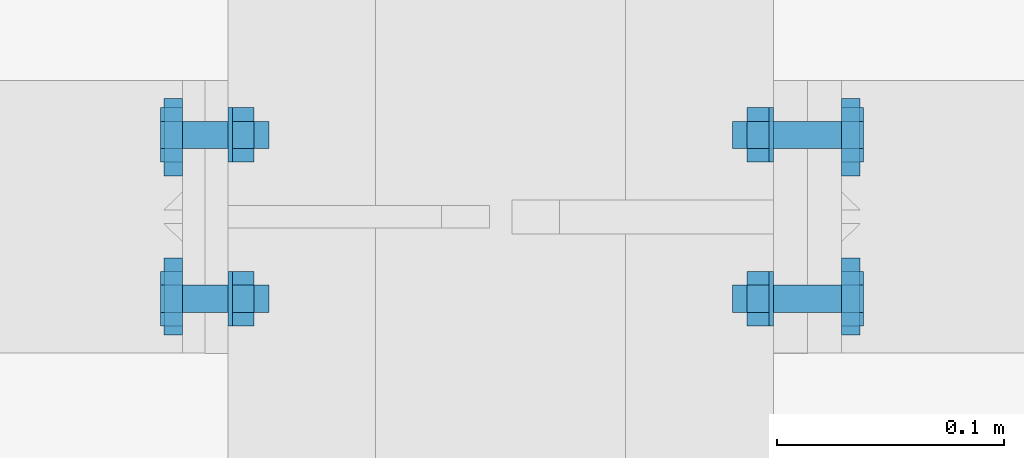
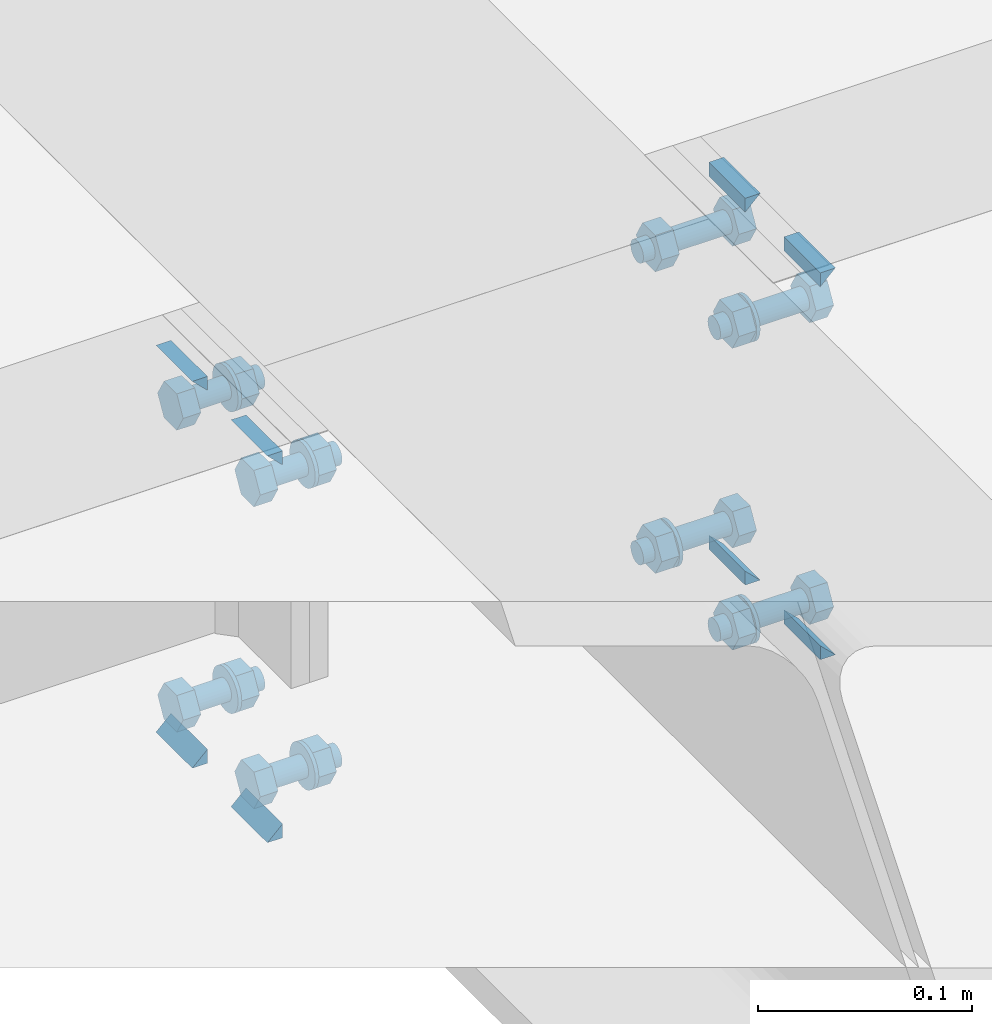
# One storey, part 52 of 66: 31 mechanical fasteners, 16 fasteners.
"""IFC4 building model written with IfcOpenShell, lengths in metres."""

from ifc_helpers import new_model, si_unit, frame, origin_with_axes, place, context, project, spatial, polyline, outline, extrude, type_object, element, save


model = new_model("IFC4")

# Units and contexts
model_context = context("Model", 3, precision=1e-05, world=origin_with_axes())
ifc_project = project(units=[si_unit("LENGTHUNIT", "METRE"), si_unit("AREAUNIT", "SQUARE_METRE"), si_unit("VOLUMEUNIT", "CUBIC_METRE"), si_unit("MASSUNIT", "GRAM", prefix="KILO"), si_unit("TIMEUNIT", "SECOND"), si_unit("PLANEANGLEUNIT", "RADIAN"), si_unit("SOLIDANGLEUNIT", "STERADIAN"), si_unit("THERMODYNAMICTEMPERATUREUNIT", "DEGREE_CELSIUS")], contexts=[model_context])

# Site, building, storey
placement_1 = place(None, origin_with_axes())
site = spatial("IfcSite", under=ifc_project, at=placement_1, Name="Italia", CompositionType="ELEMENT")
building = spatial("IfcBuilding", under=site, at=placement_1, Name="Uffici", CompositionType="ELEMENT")
storey_placement = place(None, frame((0.0, 0.0, 3.299999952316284), z_axis=(0.0, 0.0, 1.0), x_axis=(1.0, 0.0, 0.0)))
storey = spatial("IfcBuildingStorey", under=building, at=storey_placement, Name="Storey 1", CompositionType="ELEMENT", Elevation=3.299999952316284)

# Fasteners
fastener_type_1 = type_object("IfcFastenerType", Name="Collegamento -004_-003", PredefinedType="WELD")
placement_2 = place(placement_1, origin_with_axes())
fastener_1_placement = place(placement_2, origin_with_axes())
element("IfcFastener", 1, at=fastener_1_placement, inside=storey, type_object=fastener_type_1, Name="Collegamento -004_-003", context=model_context, shape_type="SweptSolid", body=[
    extrude(outline(polyline([(0.0, 0.0), (-0.00817299, 0.00792813), (0.0, 0.00792813), (0.0, 0.0)])), frame((9.31505, 1.77862, 3.28232), z_axis=(0.0, -1.0, 0.0), x_axis=(1.0, 0.0, 0.0)), (0.0, 0.0, 1.0), 0.0339999),
])
fastener_type_2 = type_object("IfcFastenerType", Name="Collegamento -004_-003", PredefinedType="WELD")
fastener_2_placement = place(placement_2, origin_with_axes())
element("IfcFastener", 2, at=fastener_2_placement, inside=storey, type_object=fastener_type_2, Name="Collegamento -004_-003", context=model_context, shape_type="SweptSolid", body=[
    extrude(outline(polyline([(0.0, 0.0), (0.00817299, -0.00792813), (0.0, -0.00792813), (0.0, 0.0)])), frame((9.31505, 1.74462, 3.07768), z_axis=(0.0, 1.0, 0.0), x_axis=(-1.0, 0.0, 0.0)), (0.0, 0.0, 1.0), 0.0339999),
])
fastener_type_3 = type_object("IfcFastenerType", Name="Collegamento -004_-003", PredefinedType="WELD")
fastener_3_placement = place(placement_2, origin_with_axes())
element("IfcFastener", 3, at=fastener_3_placement, inside=storey, type_object=fastener_type_3, Name="Collegamento -004_-003", context=model_context, shape_type="SweptSolid", body=[
    extrude(outline(polyline([(0.0, 0.0), (0.00817299, -0.00792813), (0.0, -0.00792813), (0.0, 0.0)])), frame((9.31505, 1.81472, 3.07768), z_axis=(0.0, 1.0, 0.0), x_axis=(-1.0, 0.0, 0.0)), (0.0, 0.0, 1.0), 0.0339999),
])
fastener_type_4 = type_object("IfcFastenerType", Name="Collegamento -004_-003", PredefinedType="WELD")
fastener_4_placement = place(placement_2, origin_with_axes())
element("IfcFastener", 4, at=fastener_4_placement, inside=storey, type_object=fastener_type_4, Name="Collegamento -004_-003", context=model_context, shape_type="SweptSolid", body=[
    extrude(outline(polyline([(0.0, 0.0), (-0.00817299, 0.00792813), (0.0, 0.00792813), (0.0, 0.0)])), frame((9.31505, 1.84872, 3.28232), z_axis=(0.0, -1.0, 0.0), x_axis=(1.0, 0.0, 0.0)), (0.0, 0.0, 1.0), 0.0339999),
])
fastener_type_5 = type_object("IfcFastenerType", Name="Collegamento -004_-003", PredefinedType="WELD")
fastener_5_placement = place(placement_2, origin_with_axes())
element("IfcFastener", 5, at=fastener_5_placement, inside=storey, type_object=fastener_type_5, Name="Collegamento -004_-003", context=model_context, shape_type="SweptSolid", body=[
    extrude(outline(polyline([(0.0, 0.0), (-0.00817299, 0.00792813), (0.0, 0.00792813), (0.0, 0.0)])), frame((9.31505, 1.77862, 3.28232), z_axis=(0.0, -1.0, 0.0), x_axis=(1.0, 0.0, 0.0)), (0.0, 0.0, 1.0), 0.0339999),
])
fastener_type_6 = type_object("IfcFastenerType", Name="Collegamento -004_-003", PredefinedType="WELD")
fastener_6_placement = place(placement_2, origin_with_axes())
element("IfcFastener", 6, at=fastener_6_placement, inside=storey, type_object=fastener_type_6, Name="Collegamento -004_-003", context=model_context, shape_type="SweptSolid", body=[
    extrude(outline(polyline([(0.0, 0.0), (0.00817299, -0.00792813), (0.0, -0.00792813), (0.0, 0.0)])), frame((9.31505, 1.74462, 3.07768), z_axis=(0.0, 1.0, 0.0), x_axis=(-1.0, 0.0, 0.0)), (0.0, 0.0, 1.0), 0.0339999),
])
fastener_type_7 = type_object("IfcFastenerType", Name="Collegamento -004_-003", PredefinedType="WELD")
fastener_7_placement = place(placement_2, origin_with_axes())
element("IfcFastener", 7, at=fastener_7_placement, inside=storey, type_object=fastener_type_7, Name="Collegamento -004_-003", context=model_context, shape_type="SweptSolid", body=[
    extrude(outline(polyline([(0.0, 0.0), (0.00817299, -0.00792813), (0.0, -0.00792813), (0.0, 0.0)])), frame((9.31505, 1.81472, 3.07768), z_axis=(0.0, 1.0, 0.0), x_axis=(-1.0, 0.0, 0.0)), (0.0, 0.0, 1.0), 0.0339999),
])
fastener_type_8 = type_object("IfcFastenerType", Name="Collegamento -004_-003", PredefinedType="WELD")
fastener_8_placement = place(placement_2, origin_with_axes())
element("IfcFastener", 8, at=fastener_8_placement, inside=storey, type_object=fastener_type_8, Name="Collegamento -004_-003", context=model_context, shape_type="SweptSolid", body=[
    extrude(outline(polyline([(0.0, 0.0), (-0.00817299, 0.00792813), (0.0, 0.00792813), (0.0, 0.0)])), frame((9.31505, 1.84872, 3.28232), z_axis=(0.0, -1.0, 0.0), x_axis=(1.0, 0.0, 0.0)), (0.0, 0.0, 1.0), 0.0339999),
])

# Mechanical fasteners
mechanical_fastener_type_1 = type_object("IfcMechanicalFastenerType", Name="Collegamento -004_-003", PredefinedType="BOLT")
mechanical_fastener_1_placement = place(placement_2, origin_with_axes())
element("IfcMechanicalFastener", 9, at=mechanical_fastener_1_placement, inside=storey, type_object=mechanical_fastener_type_1, Name="Collegamento -004_-003", NominalDiameter=0.0119999, context=model_context, shape_type="SweptSolid", body=[
    extrude(outline(polyline([(0.0, 0.0), (-0.0120001, 0.0), (-0.018, 0.0103924), (-0.0120001, 0.0207846), (0.0, 0.0207846), (0.00599992, 0.0103924), (0.0, 0.0)])), frame((9.315, 1.82667, 3.08361), z_axis=(-1.0, 0.0, 0.0), x_axis=(0.0, -1.0, 0.0)), (0.0, 0.0, 1.0), 0.00959969),
])
mechanical_fastener_type_2 = type_object("IfcMechanicalFastenerType", Name="Collegamento -004_-003", PredefinedType="BOLT")
mechanical_fastener_2_placement = place(placement_2, origin_with_axes())
element("IfcMechanicalFastener", 10, at=mechanical_fastener_2_placement, inside=storey, type_object=mechanical_fastener_type_2, Name="Collegamento -004_-003", NominalDiameter=0.012, context=model_context, shape_type="SweptSolid", body=[
    extrude(outline(polyline([(0.0, 0.0), (-0.000204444, -0.00155282), (-0.000803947, -0.00300002), (-0.00175738, -0.00424266), (-0.00300002, -0.00519609), (-0.0044471, -0.00579548), (-0.00600004, -0.00600004), (-0.00755298, -0.00579548), (-0.00900006, -0.00519609), (-0.0102427, -0.00424266), (-0.0111961, -0.00300002), (-0.0117956, -0.00155282), (-0.0120001, 0.0), (-0.0117956, 0.00155282), (-0.0111961, 0.00300002), (-0.0102427, 0.00424266), (-0.00900006, 0.00519609), (-0.00755298, 0.00579548), (-0.00600004, 0.00600004), (-0.0044471, 0.00579548), (-0.00300002, 0.00519609), (-0.00175738, 0.00424266), (-0.000803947, 0.00300002), (-0.000204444, 0.00155282), (0.0, 0.0)])), frame((9.353, 1.82667, 3.094), z_axis=(-1.0, 0.0, 0.0), x_axis=(0.0, -1.0, 0.0)), (0.0, 0.0, 1.0), 0.0380001),
])
mechanical_fastener_type_3 = type_object("IfcMechanicalFastenerType", Name="Collegamento -004_-003", PredefinedType="BOLT")
mechanical_fastener_3_placement = place(placement_2, origin_with_axes())
element("IfcMechanicalFastener", 11, at=mechanical_fastener_3_placement, inside=storey, type_object=mechanical_fastener_type_3, Name="Collegamento -004_-003", NominalDiameter=0.0119999, context=model_context, shape_type="SweptSolid", body=[
    extrude(outline(polyline([(0.0, 0.0), (-0.0120001, 0.0), (-0.018, 0.0103924), (-0.0120001, 0.0207846), (0.0, 0.0207846), (0.00599992, 0.0103924), (0.0, 0.0)])), frame((9.3466, 1.82667, 3.08361), z_axis=(-1.0, 0.0, 0.0), x_axis=(0.0, -1.0, 0.0)), (0.0, 0.0, 1.0), 0.00959969),
])
mechanical_fastener_type_4 = type_object("IfcMechanicalFastenerType", Name="Collegamento -004_-003", PredefinedType="BOLT")
mechanical_fastener_4_placement = place(placement_2, origin_with_axes())
element("IfcMechanicalFastener", 12, at=mechanical_fastener_4_placement, inside=storey, type_object=mechanical_fastener_type_4, Name="Collegamento -004_-003", NominalDiameter=0.024, context=model_context, shape_type="SweptSolid", body=[
    extrude(outline(polyline([(0.0, 0.0), (-0.000408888, -0.00310588), (-0.00160766, -0.00600004), (-0.00351465, -0.00848532), (-0.00599992, -0.0103922), (-0.00889409, -0.0115912), (-0.012, -0.0120001), (-0.0151058, -0.0115912), (-0.018, -0.0103922), (-0.0204853, -0.00848532), (-0.0223923, -0.00600004), (-0.023591, -0.00310588), (-0.0239999, 0.0), (-0.023591, 0.00310588), (-0.0223923, 0.00600004), (-0.0204853, 0.00848532), (-0.018, 0.0103922), (-0.0151058, 0.0115912), (-0.012, 0.0120001), (-0.00889409, 0.0115912), (-0.00599992, 0.0103922), (-0.00351465, 0.00848532), (-0.00160766, 0.00600004), (-0.000408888, 0.00310588), (0.0, 0.0)])), frame((9.337, 1.82067, 3.094), z_axis=(-1.0, 0.0, 0.0), x_axis=(0.0, -1.0, 0.0)), (0.0, 0.0, 1.0), 0.00199986),
])
mechanical_fastener_type_5 = type_object("IfcMechanicalFastenerType", Name="Collegamento -004_-003", PredefinedType="BOLT")
mechanical_fastener_5_placement = place(placement_2, origin_with_axes())
element("IfcMechanicalFastener", 13, at=mechanical_fastener_5_placement, inside=storey, type_object=mechanical_fastener_type_5, Name="Collegamento -004_-003", NominalDiameter=0.0119999, context=model_context, shape_type="SweptSolid", body=[
    extrude(outline(polyline([(0.0, 0.0), (-0.0120001, 0.0), (-0.018, 0.0103924), (-0.0120001, 0.0207846), (0.0, 0.0207846), (0.00599992, 0.0103924), (0.0, 0.0)])), frame((9.315, 1.75467, 3.08361), z_axis=(-1.0, 0.0, 0.0), x_axis=(0.0, -1.0, 0.0)), (0.0, 0.0, 1.0), 0.00959969),
])
mechanical_fastener_type_6 = type_object("IfcMechanicalFastenerType", Name="Collegamento -004_-003", PredefinedType="BOLT")
mechanical_fastener_6_placement = place(placement_2, origin_with_axes())
element("IfcMechanicalFastener", 14, at=mechanical_fastener_6_placement, inside=storey, type_object=mechanical_fastener_type_6, Name="Collegamento -004_-003", NominalDiameter=0.012, context=model_context, shape_type="SweptSolid", body=[
    extrude(outline(polyline([(0.0, 0.0), (-0.000204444, -0.00155282), (-0.000803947, -0.00300002), (-0.00175738, -0.00424266), (-0.00300002, -0.00519609), (-0.0044471, -0.00579548), (-0.00600004, -0.00600004), (-0.00755298, -0.00579548), (-0.00900006, -0.00519609), (-0.0102427, -0.00424266), (-0.0111961, -0.00300002), (-0.0117956, -0.00155282), (-0.0120001, 0.0), (-0.0117956, 0.00155282), (-0.0111961, 0.00300002), (-0.0102427, 0.00424266), (-0.00900006, 0.00519609), (-0.00755298, 0.00579548), (-0.00600004, 0.00600004), (-0.0044471, 0.00579548), (-0.00300002, 0.00519609), (-0.00175738, 0.00424266), (-0.000803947, 0.00300002), (-0.000204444, 0.00155282), (0.0, 0.0)])), frame((9.353, 1.75467, 3.094), z_axis=(-1.0, 0.0, 0.0), x_axis=(0.0, -1.0, 0.0)), (0.0, 0.0, 1.0), 0.0380001),
])
mechanical_fastener_type_7 = type_object("IfcMechanicalFastenerType", Name="Collegamento -004_-003", PredefinedType="BOLT")
mechanical_fastener_7_placement = place(placement_2, origin_with_axes())
element("IfcMechanicalFastener", 15, at=mechanical_fastener_7_placement, inside=storey, type_object=mechanical_fastener_type_7, Name="Collegamento -004_-003", NominalDiameter=0.0119999, context=model_context, shape_type="SweptSolid", body=[
    extrude(outline(polyline([(0.0, 0.0), (-0.0120001, 0.0), (-0.018, 0.0103924), (-0.0120001, 0.0207846), (0.0, 0.0207846), (0.00599992, 0.0103924), (0.0, 0.0)])), frame((9.3466, 1.75467, 3.08361), z_axis=(-1.0, 0.0, 0.0), x_axis=(0.0, -1.0, 0.0)), (0.0, 0.0, 1.0), 0.00959969),
])
mechanical_fastener_type_8 = type_object("IfcMechanicalFastenerType", Name="Collegamento -004_-003", PredefinedType="BOLT")
mechanical_fastener_8_placement = place(placement_2, origin_with_axes())
element("IfcMechanicalFastener", 16, at=mechanical_fastener_8_placement, inside=storey, type_object=mechanical_fastener_type_8, Name="Collegamento -004_-003", NominalDiameter=0.024, context=model_context, shape_type="SweptSolid", body=[
    extrude(outline(polyline([(0.0, 0.0), (-0.000408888, -0.00310588), (-0.00160766, -0.00600004), (-0.00351465, -0.00848532), (-0.00599992, -0.0103922), (-0.00889409, -0.0115912), (-0.012, -0.0120001), (-0.0151058, -0.0115912), (-0.018, -0.0103922), (-0.0204853, -0.00848532), (-0.0223923, -0.00600004), (-0.023591, -0.00310588), (-0.0239999, 0.0), (-0.023591, 0.00310588), (-0.0223923, 0.00600004), (-0.0204853, 0.00848532), (-0.018, 0.0103922), (-0.0151058, 0.0115912), (-0.012, 0.0120001), (-0.00889409, 0.0115912), (-0.00599992, 0.0103922), (-0.00351465, 0.00848532), (-0.00160766, 0.00600004), (-0.000408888, 0.00310588), (0.0, 0.0)])), frame((9.337, 1.74867, 3.094), z_axis=(-1.0, 0.0, 0.0), x_axis=(0.0, -1.0, 0.0)), (0.0, 0.0, 1.0), 0.00199986),
])
mechanical_fastener_type_9 = type_object("IfcMechanicalFastenerType", Name="Collegamento -004_-003", PredefinedType="BOLT")
mechanical_fastener_9_placement = place(placement_2, origin_with_axes())
element("IfcMechanicalFastener", 17, at=mechanical_fastener_9_placement, inside=storey, type_object=mechanical_fastener_type_9, Name="Collegamento -004_-003", NominalDiameter=0.0119999, context=model_context, shape_type="SweptSolid", body=[
    extrude(outline(polyline([(0.0, 0.0), (-0.0120001, 0.0), (-0.018, 0.0103922), (-0.0120001, 0.0207846), (0.0, 0.0207846), (0.00599992, 0.0103922), (0.0, 0.0)])), frame((9.315, 1.82667, 3.25561), z_axis=(-1.0, 0.0, 0.0), x_axis=(0.0, -1.0, 0.0)), (0.0, 0.0, 1.0), 0.00959969),
])
mechanical_fastener_type_10 = type_object("IfcMechanicalFastenerType", Name="Collegamento -004_-003", PredefinedType="BOLT")
mechanical_fastener_10_placement = place(placement_2, origin_with_axes())
element("IfcMechanicalFastener", 18, at=mechanical_fastener_10_placement, inside=storey, type_object=mechanical_fastener_type_10, Name="Collegamento -004_-003", NominalDiameter=0.012, context=model_context, shape_type="SweptSolid", body=[
    extrude(outline(polyline([(0.0, 0.0), (-0.000204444, -0.00155282), (-0.000803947, -0.00300002), (-0.00175738, -0.00424266), (-0.00300002, -0.00519609), (-0.0044471, -0.00579548), (-0.00600004, -0.00600004), (-0.00755298, -0.00579548), (-0.00900006, -0.00519609), (-0.0102427, -0.00424266), (-0.0111961, -0.00300002), (-0.0117956, -0.00155282), (-0.0120001, 0.0), (-0.0117956, 0.00155282), (-0.0111961, 0.00300002), (-0.0102427, 0.00424266), (-0.00900006, 0.00519609), (-0.00755298, 0.00579548), (-0.00600004, 0.00600004), (-0.0044471, 0.00579548), (-0.00300002, 0.00519609), (-0.00175738, 0.00424266), (-0.000803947, 0.00300002), (-0.000204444, 0.00155282), (0.0, 0.0)])), frame((9.353, 1.82667, 3.266), z_axis=(-1.0, 0.0, 0.0), x_axis=(0.0, -1.0, 0.0)), (0.0, 0.0, 1.0), 0.0380001),
])
mechanical_fastener_type_11 = type_object("IfcMechanicalFastenerType", Name="Collegamento -004_-003", PredefinedType="BOLT")
mechanical_fastener_11_placement = place(placement_2, origin_with_axes())
element("IfcMechanicalFastener", 19, at=mechanical_fastener_11_placement, inside=storey, type_object=mechanical_fastener_type_11, Name="Collegamento -004_-003", NominalDiameter=0.0119999, context=model_context, shape_type="SweptSolid", body=[
    extrude(outline(polyline([(0.0, 0.0), (-0.0120001, 0.0), (-0.018, 0.0103922), (-0.0120001, 0.0207846), (0.0, 0.0207846), (0.00599992, 0.0103922), (0.0, 0.0)])), frame((9.3466, 1.82667, 3.25561), z_axis=(-1.0, 0.0, 0.0), x_axis=(0.0, -1.0, 0.0)), (0.0, 0.0, 1.0), 0.00959969),
])
mechanical_fastener_type_12 = type_object("IfcMechanicalFastenerType", Name="Collegamento -004_-003", PredefinedType="BOLT")
mechanical_fastener_12_placement = place(placement_2, origin_with_axes())
element("IfcMechanicalFastener", 20, at=mechanical_fastener_12_placement, inside=storey, type_object=mechanical_fastener_type_12, Name="Collegamento -004_-003", NominalDiameter=0.024, context=model_context, shape_type="SweptSolid", body=[
    extrude(outline(polyline([(0.0, 0.0), (-0.000408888, -0.00310588), (-0.00160766, -0.00600004), (-0.00351465, -0.00848532), (-0.00599992, -0.0103922), (-0.00889409, -0.0115912), (-0.012, -0.0120001), (-0.0151058, -0.0115912), (-0.018, -0.0103922), (-0.0204853, -0.00848532), (-0.0223923, -0.00600004), (-0.023591, -0.00310588), (-0.0239999, 0.0), (-0.023591, 0.00310588), (-0.0223923, 0.00600004), (-0.0204853, 0.00848532), (-0.018, 0.0103922), (-0.0151058, 0.0115912), (-0.012, 0.0120001), (-0.00889409, 0.0115912), (-0.00599992, 0.0103922), (-0.00351465, 0.00848532), (-0.00160766, 0.00600004), (-0.000408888, 0.00310588), (0.0, 0.0)])), frame((9.337, 1.82067, 3.266), z_axis=(-1.0, 0.0, 0.0), x_axis=(0.0, -1.0, 0.0)), (0.0, 0.0, 1.0), 0.00199986),
])
mechanical_fastener_type_13 = type_object("IfcMechanicalFastenerType", Name="Collegamento -004_-003", PredefinedType="BOLT")
mechanical_fastener_13_placement = place(placement_2, origin_with_axes())
element("IfcMechanicalFastener", 21, at=mechanical_fastener_13_placement, inside=storey, type_object=mechanical_fastener_type_13, Name="Collegamento -004_-003", NominalDiameter=0.0119999, context=model_context, shape_type="SweptSolid", body=[
    extrude(outline(polyline([(0.0, 0.0), (-0.0120001, 0.0), (-0.018, 0.0103922), (-0.0120001, 0.0207846), (0.0, 0.0207846), (0.00599992, 0.0103922), (0.0, 0.0)])), frame((9.315, 1.75467, 3.25561), z_axis=(-1.0, 0.0, 0.0), x_axis=(0.0, -1.0, 0.0)), (0.0, 0.0, 1.0), 0.00959969),
])
mechanical_fastener_type_14 = type_object("IfcMechanicalFastenerType", Name="Collegamento -004_-003", PredefinedType="BOLT")
mechanical_fastener_14_placement = place(placement_2, origin_with_axes())
element("IfcMechanicalFastener", 22, at=mechanical_fastener_14_placement, inside=storey, type_object=mechanical_fastener_type_14, Name="Collegamento -004_-003", NominalDiameter=0.012, context=model_context, shape_type="SweptSolid", body=[
    extrude(outline(polyline([(0.0, 0.0), (-0.000204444, -0.00155282), (-0.000803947, -0.00300002), (-0.00175738, -0.00424266), (-0.00300002, -0.00519609), (-0.0044471, -0.00579548), (-0.00600004, -0.00600004), (-0.00755298, -0.00579548), (-0.00900006, -0.00519609), (-0.0102427, -0.00424266), (-0.0111961, -0.00300002), (-0.0117956, -0.00155282), (-0.0120001, 0.0), (-0.0117956, 0.00155282), (-0.0111961, 0.00300002), (-0.0102427, 0.00424266), (-0.00900006, 0.00519609), (-0.00755298, 0.00579548), (-0.00600004, 0.00600004), (-0.0044471, 0.00579548), (-0.00300002, 0.00519609), (-0.00175738, 0.00424266), (-0.000803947, 0.00300002), (-0.000204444, 0.00155282), (0.0, 0.0)])), frame((9.353, 1.75467, 3.266), z_axis=(-1.0, 0.0, 0.0), x_axis=(0.0, -1.0, 0.0)), (0.0, 0.0, 1.0), 0.0380001),
])
mechanical_fastener_type_15 = type_object("IfcMechanicalFastenerType", Name="Collegamento -004_-003", PredefinedType="BOLT")
mechanical_fastener_15_placement = place(placement_2, origin_with_axes())
element("IfcMechanicalFastener", 23, at=mechanical_fastener_15_placement, inside=storey, type_object=mechanical_fastener_type_15, Name="Collegamento -004_-003", NominalDiameter=0.0119999, context=model_context, shape_type="SweptSolid", body=[
    extrude(outline(polyline([(0.0, 0.0), (-0.0120001, 0.0), (-0.018, 0.0103922), (-0.0120001, 0.0207846), (0.0, 0.0207846), (0.00599992, 0.0103922), (0.0, 0.0)])), frame((9.3466, 1.75467, 3.25561), z_axis=(-1.0, 0.0, 0.0), x_axis=(0.0, -1.0, 0.0)), (0.0, 0.0, 1.0), 0.00959969),
])
mechanical_fastener_type_16 = type_object("IfcMechanicalFastenerType", Name="Collegamento -004_-003", PredefinedType="BOLT")
mechanical_fastener_16_placement = place(placement_2, origin_with_axes())
element("IfcMechanicalFastener", 24, at=mechanical_fastener_16_placement, inside=storey, type_object=mechanical_fastener_type_16, Name="Collegamento -004_-003", NominalDiameter=0.024, context=model_context, shape_type="SweptSolid", body=[
    extrude(outline(polyline([(0.0, 0.0), (-0.000408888, -0.00310588), (-0.00160766, -0.00600004), (-0.00351465, -0.00848532), (-0.00599992, -0.0103922), (-0.00889409, -0.0115912), (-0.012, -0.0120001), (-0.0151058, -0.0115912), (-0.018, -0.0103922), (-0.0204853, -0.00848532), (-0.0223923, -0.00600004), (-0.023591, -0.00310588), (-0.0239999, 0.0), (-0.023591, 0.00310588), (-0.0223923, 0.00600004), (-0.0204853, 0.00848532), (-0.018, 0.0103922), (-0.0151058, 0.0115912), (-0.012, 0.0120001), (-0.00889409, 0.0115912), (-0.00599992, 0.0103922), (-0.00351465, 0.00848532), (-0.00160766, 0.00600004), (-0.000408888, 0.00310588), (0.0, 0.0)])), frame((9.337, 1.74867, 3.266), z_axis=(-1.0, 0.0, 0.0), x_axis=(0.0, -1.0, 0.0)), (0.0, 0.0, 1.0), 0.00199986),
])

# Fasteners
fastener_type_9 = type_object("IfcFastenerType", Name="Collegamento -004_-005", PredefinedType="WELD")
fastener_9_placement = place(placement_2, origin_with_axes())
element("IfcFastener", 25, at=fastener_9_placement, inside=storey, type_object=fastener_type_9, Name="Collegamento -004_-005", context=model_context, shape_type="SweptSolid", body=[
    extrude(outline(polyline([(0.0, 0.0), (-0.00817299, 0.00792813), (0.0, 0.00792813), (0.0, 0.0)])), frame((9.60495, 1.74462, 3.28232), z_axis=(0.0, 1.0, 0.0), x_axis=(-1.0, 0.0, 0.0)), (0.0, 0.0, 1.0), 0.0339999),
])
fastener_type_10 = type_object("IfcFastenerType", Name="Collegamento -004_-005", PredefinedType="WELD")
fastener_10_placement = place(placement_2, origin_with_axes())
element("IfcFastener", 26, at=fastener_10_placement, inside=storey, type_object=fastener_type_10, Name="Collegamento -004_-005", context=model_context, shape_type="SweptSolid", body=[
    extrude(outline(polyline([(0.0, 0.0), (0.00817299, -0.00792813), (0.0, -0.00792813), (0.0, 0.0)])), frame((9.60495, 1.77862, 3.07768), z_axis=(0.0, -1.0, 0.0), x_axis=(1.0, 0.0, 0.0)), (0.0, 0.0, 1.0), 0.0339999),
])
fastener_type_11 = type_object("IfcFastenerType", Name="Collegamento -004_-005", PredefinedType="WELD")
fastener_11_placement = place(placement_2, origin_with_axes())
element("IfcFastener", 27, at=fastener_11_placement, inside=storey, type_object=fastener_type_11, Name="Collegamento -004_-005", context=model_context, shape_type="SweptSolid", body=[
    extrude(outline(polyline([(0.0, 0.0), (0.00817299, -0.00792813), (0.0, -0.00792813), (0.0, 0.0)])), frame((9.60495, 1.84872, 3.07768), z_axis=(0.0, -1.0, 0.0), x_axis=(1.0, 0.0, 0.0)), (0.0, 0.0, 1.0), 0.0339999),
])
fastener_type_12 = type_object("IfcFastenerType", Name="Collegamento -004_-005", PredefinedType="WELD")
fastener_12_placement = place(placement_2, origin_with_axes())
element("IfcFastener", 28, at=fastener_12_placement, inside=storey, type_object=fastener_type_12, Name="Collegamento -004_-005", context=model_context, shape_type="SweptSolid", body=[
    extrude(outline(polyline([(0.0, 0.0), (-0.00817299, 0.00792813), (0.0, 0.00792813), (0.0, 0.0)])), frame((9.60495, 1.81472, 3.28232), z_axis=(0.0, 1.0, 0.0), x_axis=(-1.0, 0.0, 0.0)), (0.0, 0.0, 1.0), 0.0339999),
])
fastener_type_13 = type_object("IfcFastenerType", Name="Collegamento -004_-005", PredefinedType="WELD")
fastener_13_placement = place(placement_2, origin_with_axes())
element("IfcFastener", 29, at=fastener_13_placement, inside=storey, type_object=fastener_type_13, Name="Collegamento -004_-005", context=model_context, shape_type="SweptSolid", body=[
    extrude(outline(polyline([(0.0, 0.0), (-0.00817299, 0.00792813), (0.0, 0.00792813), (0.0, 0.0)])), frame((9.60495, 1.74462, 3.28232), z_axis=(0.0, 1.0, 0.0), x_axis=(-1.0, 0.0, 0.0)), (0.0, 0.0, 1.0), 0.0339999),
])
fastener_type_14 = type_object("IfcFastenerType", Name="Collegamento -004_-005", PredefinedType="WELD")
fastener_14_placement = place(placement_2, origin_with_axes())
element("IfcFastener", 30, at=fastener_14_placement, inside=storey, type_object=fastener_type_14, Name="Collegamento -004_-005", context=model_context, shape_type="SweptSolid", body=[
    extrude(outline(polyline([(0.0, 0.0), (0.00817299, -0.00792813), (0.0, -0.00792813), (0.0, 0.0)])), frame((9.60495, 1.77862, 3.07768), z_axis=(0.0, -1.0, 0.0), x_axis=(1.0, 0.0, 0.0)), (0.0, 0.0, 1.0), 0.0339999),
])
fastener_type_15 = type_object("IfcFastenerType", Name="Collegamento -004_-005", PredefinedType="WELD")
fastener_15_placement = place(placement_2, origin_with_axes())
element("IfcFastener", 31, at=fastener_15_placement, inside=storey, type_object=fastener_type_15, Name="Collegamento -004_-005", context=model_context, shape_type="SweptSolid", body=[
    extrude(outline(polyline([(0.0, 0.0), (0.00817299, -0.00792813), (0.0, -0.00792813), (0.0, 0.0)])), frame((9.60495, 1.84872, 3.07768), z_axis=(0.0, -1.0, 0.0), x_axis=(1.0, 0.0, 0.0)), (0.0, 0.0, 1.0), 0.0339999),
])
fastener_type_16 = type_object("IfcFastenerType", Name="Collegamento -004_-005", PredefinedType="WELD")
fastener_16_placement = place(placement_2, origin_with_axes())
element("IfcFastener", 32, at=fastener_16_placement, inside=storey, type_object=fastener_type_16, Name="Collegamento -004_-005", context=model_context, shape_type="SweptSolid", body=[
    extrude(outline(polyline([(0.0, 0.0), (-0.00817299, 0.00792813), (0.0, 0.00792813), (0.0, 0.0)])), frame((9.60495, 1.81472, 3.28232), z_axis=(0.0, 1.0, 0.0), x_axis=(-1.0, 0.0, 0.0)), (0.0, 0.0, 1.0), 0.0339999),
])

# Mechanical fasteners
mechanical_fastener_type_17 = type_object("IfcMechanicalFastenerType", Name="Collegamento -004_-005", PredefinedType="BOLT")
mechanical_fastener_17_placement = place(placement_2, origin_with_axes())
element("IfcMechanicalFastener", 33, at=mechanical_fastener_17_placement, inside=storey, type_object=mechanical_fastener_type_17, Name="Collegamento -004_-005", NominalDiameter=0.0119999, context=model_context, shape_type="SweptSolid", body=[
    extrude(outline(polyline([(0.0, 0.0), (-0.0120001, 0.0), (-0.018, 0.0103924), (-0.0120001, 0.0207846), (0.0, 0.0207846), (0.00599992, 0.0103924), (0.0, 0.0)])), frame((9.605, 1.76667, 3.08361), z_axis=(1.0, 0.0, 0.0), x_axis=(0.0, 1.0, 0.0)), (0.0, 0.0, 1.0), 0.00960064),
])
mechanical_fastener_type_18 = type_object("IfcMechanicalFastenerType", Name="Collegamento -004_-005", PredefinedType="BOLT")
mechanical_fastener_18_placement = place(placement_2, origin_with_axes())
element("IfcMechanicalFastener", 34, at=mechanical_fastener_18_placement, inside=storey, type_object=mechanical_fastener_type_18, Name="Collegamento -004_-005", NominalDiameter=0.012, context=model_context, shape_type="SweptSolid", body=[
    extrude(outline(polyline([(0.0, 0.0), (-0.000204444, -0.00155282), (-0.000803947, -0.00300002), (-0.00175738, -0.00424266), (-0.00300002, -0.00519609), (-0.0044471, -0.00579548), (-0.00600004, -0.00600004), (-0.00755298, -0.00579548), (-0.00900006, -0.00519609), (-0.0102427, -0.00424266), (-0.0111961, -0.00300002), (-0.0117956, -0.00155282), (-0.0120001, 0.0), (-0.0117956, 0.00155282), (-0.0111961, 0.00300002), (-0.0102427, 0.00424266), (-0.00900006, 0.00519609), (-0.00755298, 0.00579548), (-0.00600004, 0.00600004), (-0.0044471, 0.00579548), (-0.00300002, 0.00519609), (-0.00175738, 0.00424266), (-0.000803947, 0.00300002), (-0.000204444, 0.00155282), (0.0, 0.0)])), frame((9.557, 1.76667, 3.094), z_axis=(1.0, 0.0, 0.0), x_axis=(0.0, 1.0, 0.0)), (0.0, 0.0, 1.0), 0.0479994),
])
mechanical_fastener_type_19 = type_object("IfcMechanicalFastenerType", Name="Collegamento -004_-005", PredefinedType="BOLT")
mechanical_fastener_19_placement = place(placement_2, origin_with_axes())
element("IfcMechanicalFastener", 35, at=mechanical_fastener_19_placement, inside=storey, type_object=mechanical_fastener_type_19, Name="Collegamento -004_-005", NominalDiameter=0.0119999, context=model_context, shape_type="SweptSolid", body=[
    extrude(outline(polyline([(0.0, 0.0), (-0.0120001, 0.0), (-0.018, 0.0103924), (-0.0120001, 0.0207846), (0.0, 0.0207846), (0.00599992, 0.0103924), (0.0, 0.0)])), frame((9.5634, 1.76667, 3.08361), z_axis=(1.0, 0.0, 0.0), x_axis=(0.0, 1.0, 0.0)), (0.0, 0.0, 1.0), 0.00959969),
])
mechanical_fastener_type_20 = type_object("IfcMechanicalFastenerType", Name="Collegamento -004_-005", PredefinedType="BOLT")
mechanical_fastener_20_placement = place(placement_2, origin_with_axes())
element("IfcMechanicalFastener", 36, at=mechanical_fastener_20_placement, inside=storey, type_object=mechanical_fastener_type_20, Name="Collegamento -004_-005", NominalDiameter=0.024, context=model_context, shape_type="SweptSolid", body=[
    extrude(outline(polyline([(0.0, 0.0), (-0.000408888, -0.00310588), (-0.00160766, -0.00600004), (-0.00351465, -0.00848532), (-0.00599992, -0.0103922), (-0.00889409, -0.0115912), (-0.012, -0.0120001), (-0.0151058, -0.0115912), (-0.018, -0.0103922), (-0.0204853, -0.00848532), (-0.0223923, -0.00600004), (-0.023591, -0.00310588), (-0.0239999, 0.0), (-0.023591, 0.00310588), (-0.0223923, 0.00600004), (-0.0204853, 0.00848532), (-0.018, 0.0103922), (-0.0151058, 0.0115912), (-0.012, 0.0120001), (-0.00889409, 0.0115912), (-0.00599992, 0.0103922), (-0.00351465, 0.00848532), (-0.00160766, 0.00600004), (-0.000408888, 0.00310588), (0.0, 0.0)])), frame((9.573, 1.77267, 3.094), z_axis=(1.0, 0.0, 0.0), x_axis=(0.0, 1.0, 0.0)), (0.0, 0.0, 1.0), 0.00199986),
])
mechanical_fastener_type_21 = type_object("IfcMechanicalFastenerType", Name="Collegamento -004_-005", PredefinedType="BOLT")
mechanical_fastener_21_placement = place(placement_2, origin_with_axes())
element("IfcMechanicalFastener", 37, at=mechanical_fastener_21_placement, inside=storey, type_object=mechanical_fastener_type_21, Name="Collegamento -004_-005", NominalDiameter=0.0119999, context=model_context, shape_type="SweptSolid", body=[
    extrude(outline(polyline([(0.0, 0.0), (-0.0120001, 0.0), (-0.018, 0.0103924), (-0.0120001, 0.0207846), (0.0, 0.0207846), (0.00599992, 0.0103924), (0.0, 0.0)])), frame((9.605, 1.83867, 3.08361), z_axis=(1.0, 0.0, 0.0), x_axis=(0.0, 1.0, 0.0)), (0.0, 0.0, 1.0), 0.00960064),
])
mechanical_fastener_type_22 = type_object("IfcMechanicalFastenerType", Name="Collegamento -004_-005", PredefinedType="BOLT")
mechanical_fastener_22_placement = place(placement_2, origin_with_axes())
element("IfcMechanicalFastener", 38, at=mechanical_fastener_22_placement, inside=storey, type_object=mechanical_fastener_type_22, Name="Collegamento -004_-005", NominalDiameter=0.012, context=model_context, shape_type="SweptSolid", body=[
    extrude(outline(polyline([(0.0, 0.0), (-0.000204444, -0.00155282), (-0.000803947, -0.00300002), (-0.00175738, -0.00424266), (-0.00300002, -0.00519609), (-0.0044471, -0.00579548), (-0.00600004, -0.00600004), (-0.00755298, -0.00579548), (-0.00900006, -0.00519609), (-0.0102427, -0.00424266), (-0.0111961, -0.00300002), (-0.0117956, -0.00155282), (-0.0120001, 0.0), (-0.0117956, 0.00155282), (-0.0111961, 0.00300002), (-0.0102427, 0.00424266), (-0.00900006, 0.00519609), (-0.00755298, 0.00579548), (-0.00600004, 0.00600004), (-0.0044471, 0.00579548), (-0.00300002, 0.00519609), (-0.00175738, 0.00424266), (-0.000803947, 0.00300002), (-0.000204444, 0.00155282), (0.0, 0.0)])), frame((9.557, 1.83867, 3.094), z_axis=(1.0, 0.0, 0.0), x_axis=(0.0, 1.0, 0.0)), (0.0, 0.0, 1.0), 0.0479994),
])
mechanical_fastener_type_23 = type_object("IfcMechanicalFastenerType", Name="Collegamento -004_-005", PredefinedType="BOLT")
mechanical_fastener_23_placement = place(placement_2, origin_with_axes())
element("IfcMechanicalFastener", 39, at=mechanical_fastener_23_placement, inside=storey, type_object=mechanical_fastener_type_23, Name="Collegamento -004_-005", NominalDiameter=0.0119999, context=model_context, shape_type="SweptSolid", body=[
    extrude(outline(polyline([(0.0, 0.0), (-0.0120001, 0.0), (-0.018, 0.0103924), (-0.0120001, 0.0207846), (0.0, 0.0207846), (0.00599992, 0.0103924), (0.0, 0.0)])), frame((9.5634, 1.83867, 3.08361), z_axis=(1.0, 0.0, 0.0), x_axis=(0.0, 1.0, 0.0)), (0.0, 0.0, 1.0), 0.00959969),
])
mechanical_fastener_type_24 = type_object("IfcMechanicalFastenerType", Name="Collegamento -004_-005", PredefinedType="BOLT")
mechanical_fastener_24_placement = place(placement_2, origin_with_axes())
element("IfcMechanicalFastener", 40, at=mechanical_fastener_24_placement, inside=storey, type_object=mechanical_fastener_type_24, Name="Collegamento -004_-005", NominalDiameter=0.024, context=model_context, shape_type="SweptSolid", body=[
    extrude(outline(polyline([(0.0, 0.0), (-0.000408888, -0.00310588), (-0.00160766, -0.00600004), (-0.00351465, -0.00848532), (-0.00599992, -0.0103922), (-0.00889409, -0.0115912), (-0.012, -0.0120001), (-0.0151058, -0.0115912), (-0.018, -0.0103922), (-0.0204853, -0.00848532), (-0.0223923, -0.00600004), (-0.023591, -0.00310588), (-0.0239999, 0.0), (-0.023591, 0.00310588), (-0.0223923, 0.00600004), (-0.0204853, 0.00848532), (-0.018, 0.0103922), (-0.0151058, 0.0115912), (-0.012, 0.0120001), (-0.00889409, 0.0115912), (-0.00599992, 0.0103922), (-0.00351465, 0.00848532), (-0.00160766, 0.00600004), (-0.000408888, 0.00310588), (0.0, 0.0)])), frame((9.573, 1.84467, 3.094), z_axis=(1.0, 0.0, 0.0), x_axis=(0.0, 1.0, 0.0)), (0.0, 0.0, 1.0), 0.00199986),
])
mechanical_fastener_type_25 = type_object("IfcMechanicalFastenerType", Name="Collegamento -004_-005", PredefinedType="BOLT")
mechanical_fastener_25_placement = place(placement_2, origin_with_axes())
element("IfcMechanicalFastener", 41, at=mechanical_fastener_25_placement, inside=storey, type_object=mechanical_fastener_type_25, Name="Collegamento -004_-005", NominalDiameter=0.0119999, context=model_context, shape_type="SweptSolid", body=[
    extrude(outline(polyline([(0.0, 0.0), (-0.0120001, 0.0), (-0.018, 0.0103922), (-0.0120001, 0.0207846), (0.0, 0.0207846), (0.00599992, 0.0103922), (0.0, 0.0)])), frame((9.605, 1.76667, 3.25561), z_axis=(1.0, 0.0, 0.0), x_axis=(0.0, 1.0, 0.0)), (0.0, 0.0, 1.0), 0.00960064),
])
mechanical_fastener_type_26 = type_object("IfcMechanicalFastenerType", Name="Collegamento -004_-005", PredefinedType="BOLT")
mechanical_fastener_26_placement = place(placement_2, origin_with_axes())
element("IfcMechanicalFastener", 42, at=mechanical_fastener_26_placement, inside=storey, type_object=mechanical_fastener_type_26, Name="Collegamento -004_-005", NominalDiameter=0.012, context=model_context, shape_type="SweptSolid", body=[
    extrude(outline(polyline([(0.0, 0.0), (-0.000204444, -0.00155282), (-0.000803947, -0.00300002), (-0.00175738, -0.00424266), (-0.00300002, -0.00519609), (-0.0044471, -0.00579548), (-0.00600004, -0.00600004), (-0.00755298, -0.00579548), (-0.00900006, -0.00519609), (-0.0102427, -0.00424266), (-0.0111961, -0.00300002), (-0.0117956, -0.00155282), (-0.0120001, 0.0), (-0.0117956, 0.00155282), (-0.0111961, 0.00300002), (-0.0102427, 0.00424266), (-0.00900006, 0.00519609), (-0.00755298, 0.00579548), (-0.00600004, 0.00600004), (-0.0044471, 0.00579548), (-0.00300002, 0.00519609), (-0.00175738, 0.00424266), (-0.000803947, 0.00300002), (-0.000204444, 0.00155282), (0.0, 0.0)])), frame((9.557, 1.76667, 3.266), z_axis=(1.0, 0.0, 0.0), x_axis=(0.0, 1.0, 0.0)), (0.0, 0.0, 1.0), 0.0479994),
])
mechanical_fastener_type_27 = type_object("IfcMechanicalFastenerType", Name="Collegamento -004_-005", PredefinedType="BOLT")
mechanical_fastener_27_placement = place(placement_2, origin_with_axes())
element("IfcMechanicalFastener", 43, at=mechanical_fastener_27_placement, inside=storey, type_object=mechanical_fastener_type_27, Name="Collegamento -004_-005", NominalDiameter=0.0119999, context=model_context, shape_type="SweptSolid", body=[
    extrude(outline(polyline([(0.0, 0.0), (-0.0120001, 0.0), (-0.018, 0.0103922), (-0.0120001, 0.0207846), (0.0, 0.0207846), (0.00599992, 0.0103922), (0.0, 0.0)])), frame((9.5634, 1.76667, 3.25561), z_axis=(1.0, 0.0, 0.0), x_axis=(0.0, 1.0, 0.0)), (0.0, 0.0, 1.0), 0.00959969),
])
mechanical_fastener_type_28 = type_object("IfcMechanicalFastenerType", Name="Collegamento -004_-005", PredefinedType="BOLT")
mechanical_fastener_28_placement = place(placement_2, origin_with_axes())
element("IfcMechanicalFastener", 44, at=mechanical_fastener_28_placement, inside=storey, type_object=mechanical_fastener_type_28, Name="Collegamento -004_-005", NominalDiameter=0.024, context=model_context, shape_type="SweptSolid", body=[
    extrude(outline(polyline([(0.0, 0.0), (-0.000408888, -0.00310588), (-0.00160766, -0.00600004), (-0.00351465, -0.00848532), (-0.00599992, -0.0103922), (-0.00889409, -0.0115912), (-0.012, -0.0120001), (-0.0151058, -0.0115912), (-0.018, -0.0103922), (-0.0204853, -0.00848532), (-0.0223923, -0.00600004), (-0.023591, -0.00310588), (-0.0239999, 0.0), (-0.023591, 0.00310588), (-0.0223923, 0.00600004), (-0.0204853, 0.00848532), (-0.018, 0.0103922), (-0.0151058, 0.0115912), (-0.012, 0.0120001), (-0.00889409, 0.0115912), (-0.00599992, 0.0103922), (-0.00351465, 0.00848532), (-0.00160766, 0.00600004), (-0.000408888, 0.00310588), (0.0, 0.0)])), frame((9.573, 1.77267, 3.266), z_axis=(1.0, 0.0, 0.0), x_axis=(0.0, 1.0, 0.0)), (0.0, 0.0, 1.0), 0.00199986),
])
mechanical_fastener_type_29 = type_object("IfcMechanicalFastenerType", Name="Collegamento -004_-005", PredefinedType="BOLT")
mechanical_fastener_29_placement = place(placement_2, origin_with_axes())
element("IfcMechanicalFastener", 45, at=mechanical_fastener_29_placement, inside=storey, type_object=mechanical_fastener_type_29, Name="Collegamento -004_-005", NominalDiameter=0.0119999, context=model_context, shape_type="SweptSolid", body=[
    extrude(outline(polyline([(0.0, 0.0), (-0.0120001, 0.0), (-0.018, 0.0103922), (-0.0120001, 0.0207846), (0.0, 0.0207846), (0.00599992, 0.0103922), (0.0, 0.0)])), frame((9.605, 1.83867, 3.25561), z_axis=(1.0, 0.0, 0.0), x_axis=(0.0, 1.0, 0.0)), (0.0, 0.0, 1.0), 0.00960064),
])
mechanical_fastener_type_30 = type_object("IfcMechanicalFastenerType", Name="Collegamento -004_-005", PredefinedType="BOLT")
mechanical_fastener_30_placement = place(placement_2, origin_with_axes())
element("IfcMechanicalFastener", 46, at=mechanical_fastener_30_placement, inside=storey, type_object=mechanical_fastener_type_30, Name="Collegamento -004_-005", NominalDiameter=0.012, context=model_context, shape_type="SweptSolid", body=[
    extrude(outline(polyline([(0.0, 0.0), (-0.000204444, -0.00155282), (-0.000803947, -0.00300002), (-0.00175738, -0.00424266), (-0.00300002, -0.00519609), (-0.0044471, -0.00579548), (-0.00600004, -0.00600004), (-0.00755298, -0.00579548), (-0.00900006, -0.00519609), (-0.0102427, -0.00424266), (-0.0111961, -0.00300002), (-0.0117956, -0.00155282), (-0.0120001, 0.0), (-0.0117956, 0.00155282), (-0.0111961, 0.00300002), (-0.0102427, 0.00424266), (-0.00900006, 0.00519609), (-0.00755298, 0.00579548), (-0.00600004, 0.00600004), (-0.0044471, 0.00579548), (-0.00300002, 0.00519609), (-0.00175738, 0.00424266), (-0.000803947, 0.00300002), (-0.000204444, 0.00155282), (0.0, 0.0)])), frame((9.557, 1.83867, 3.266), z_axis=(1.0, 0.0, 0.0), x_axis=(0.0, 1.0, 0.0)), (0.0, 0.0, 1.0), 0.0479994),
])
mechanical_fastener_type_31 = type_object("IfcMechanicalFastenerType", Name="Collegamento -004_-005", PredefinedType="BOLT")
mechanical_fastener_31_placement = place(placement_2, origin_with_axes())
element("IfcMechanicalFastener", 47, at=mechanical_fastener_31_placement, inside=storey, type_object=mechanical_fastener_type_31, Name="Collegamento -004_-005", NominalDiameter=0.0119999, context=model_context, shape_type="SweptSolid", body=[
    extrude(outline(polyline([(0.0, 0.0), (-0.0120001, 0.0), (-0.018, 0.0103922), (-0.0120001, 0.0207846), (0.0, 0.0207846), (0.00599992, 0.0103922), (0.0, 0.0)])), frame((9.5634, 1.83867, 3.25561), z_axis=(1.0, 0.0, 0.0), x_axis=(0.0, 1.0, 0.0)), (0.0, 0.0, 1.0), 0.00959969),
])

save(model, "model.ifc")
